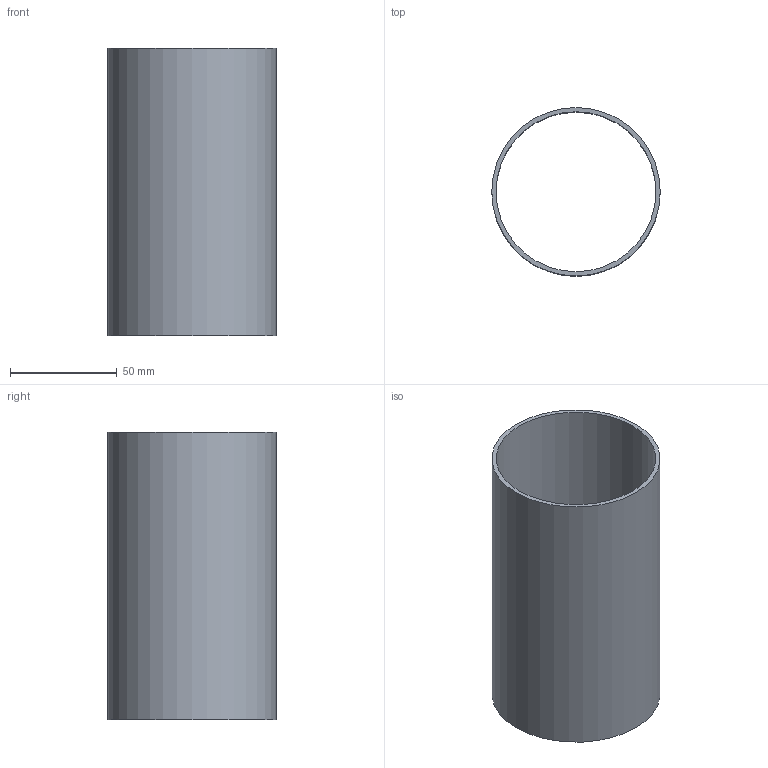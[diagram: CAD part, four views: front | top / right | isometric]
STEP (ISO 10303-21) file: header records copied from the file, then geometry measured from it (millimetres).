
FILE_DESCRIPTION(('Open CASCADE Model'),'2;1');
FILE_NAME('Open CASCADE Shape Model','2026-10-21T10:33:18',('Author'),( 'Open CASCADE'),'Open CASCADE STEP processor 7.9','Open CASCADE 7.9' ,'Unknown');
FILE_SCHEMA(('AUTOMOTIVE_DESIGN { 1 0 10303 214 1 1 1 1 }'));
Length unit declared in the file: millimetre
Products named in the file (1): Open CASCADE STEP translator 7.9 7
Bounding box: 79 x 79 x 135 mm (x, y, z)
Volume: 65313.7 mm3; surface area: 66281.3 mm2
Topology: 1 solids, 1 shells, 4 faces, 6 edges, 4 vertices
Faces by surface type: cylinder 2, plane 2
Full cylindrical faces by diameter (mm): 75 x1, 79 x1
Entity records: 186 total; most frequent: DIRECTION 32, CARTESIAN_POINT 27, ORIENTED_EDGE 12, PCURVE 12, DEFINITIONAL_REPRESENTATION 12, LINE 10, VECTOR 10, AXIS2_PLACEMENT_3D 9
